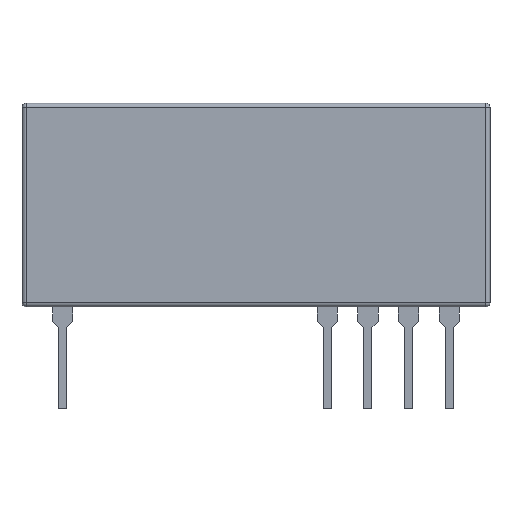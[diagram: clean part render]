
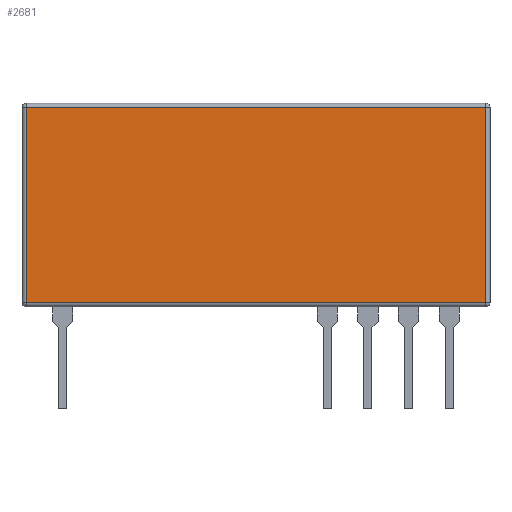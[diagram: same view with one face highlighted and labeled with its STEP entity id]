
A CAD part, top view. The second image highlights one B-rep face of the part: STEP entity #2681.
In plain terms, the highlighted planar face has unit normal (0, 0, 1).
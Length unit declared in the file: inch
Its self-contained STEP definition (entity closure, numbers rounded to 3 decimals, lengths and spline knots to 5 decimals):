
#151 = DIRECTION ( 'NONE',  ( 0., 0., -1. ) ) ;
#161 = CARTESIAN_POINT ( 'NONE',  ( 0.01, 0.49, 0. ) ) ;
#233 = LINE ( 'NONE', #1948, #971 ) ;
#254 = EDGE_LOOP ( 'NONE', ( #1477, #1259, #1037, #1501 ) ) ;
#422 = EDGE_CURVE ( 'NONE', #2335, #2582, #1591, .T. ) ;
#431 = CARTESIAN_POINT ( 'NONE',  ( 1.14, 0.01, 0. ) ) ;
#488 = VERTEX_POINT ( 'NONE', #161 ) ;
#631 = VECTOR ( 'NONE', #1654, 39.37008 ) ;
#633 = EDGE_CURVE ( 'NONE', #488, #2335, #1083, .T. ) ;
#638 = DIRECTION ( 'NONE',  ( 0., -1., 0. ) ) ;
#697 = AXIS2_PLACEMENT_3D ( 'NONE', #1194, #151, #1000 ) ;
#728 = CARTESIAN_POINT ( 'NONE',  ( 1.14, 0.5, 0. ) ) ;
#971 = VECTOR ( 'NONE', #1090, 39.37008 ) ;
#1000 = DIRECTION ( 'NONE',  ( -1., 0., 0. ) ) ;
#1037 = ORIENTED_EDGE ( 'NONE', *, *, #633, .T. ) ;
#1083 = LINE ( 'NONE', #1438, #2513 ) ;
#1090 = DIRECTION ( 'NONE',  ( -1., 0., 0. ) ) ;
#1143 = LINE ( 'NONE', #728, #2512 ) ;
#1176 = CARTESIAN_POINT ( 'NONE',  ( 1.15, 0.01, 0. ) ) ;
#1194 = CARTESIAN_POINT ( 'NONE',  ( 0., 0.5, 0. ) ) ;
#1259 = ORIENTED_EDGE ( 'NONE', *, *, #1445, .T. ) ;
#1326 = FACE_OUTER_BOUND ( 'NONE', #254, .T. ) ;
#1438 = CARTESIAN_POINT ( 'NONE',  ( 0.01, 0.5, 0. ) ) ;
#1445 = EDGE_CURVE ( 'NONE', #2163, #488, #233, .T. ) ;
#1477 = ORIENTED_EDGE ( 'NONE', *, *, #2130, .T. ) ;
#1501 = ORIENTED_EDGE ( 'NONE', *, *, #422, .T. ) ;
#1535 = CARTESIAN_POINT ( 'NONE',  ( 0.01, 0.01, 0. ) ) ;
#1591 = LINE ( 'NONE', #1176, #631 ) ;
#1654 = DIRECTION ( 'NONE',  ( 1., 0., 0. ) ) ;
#1948 = CARTESIAN_POINT ( 'NONE',  ( 0., 0.49, 0. ) ) ;
#2034 = CARTESIAN_POINT ( 'NONE',  ( 1.14, 0.49, 0. ) ) ;
#2067 = PLANE ( 'NONE',  #697 ) ;
#2130 = EDGE_CURVE ( 'NONE', #2582, #2163, #1143, .T. ) ;
#2163 = VERTEX_POINT ( 'NONE', #2034 ) ;
#2335 = VERTEX_POINT ( 'NONE', #1535 ) ;
#2419 = DIRECTION ( 'NONE',  ( 0., 1., 0. ) ) ;
#2512 = VECTOR ( 'NONE', #2419, 39.37008 ) ;
#2513 = VECTOR ( 'NONE', #638, 39.37008 ) ;
#2582 = VERTEX_POINT ( 'NONE', #431 ) ;
#2681 = ADVANCED_FACE ( 'NONE', ( #1326 ), #2067, .F. ) ;
